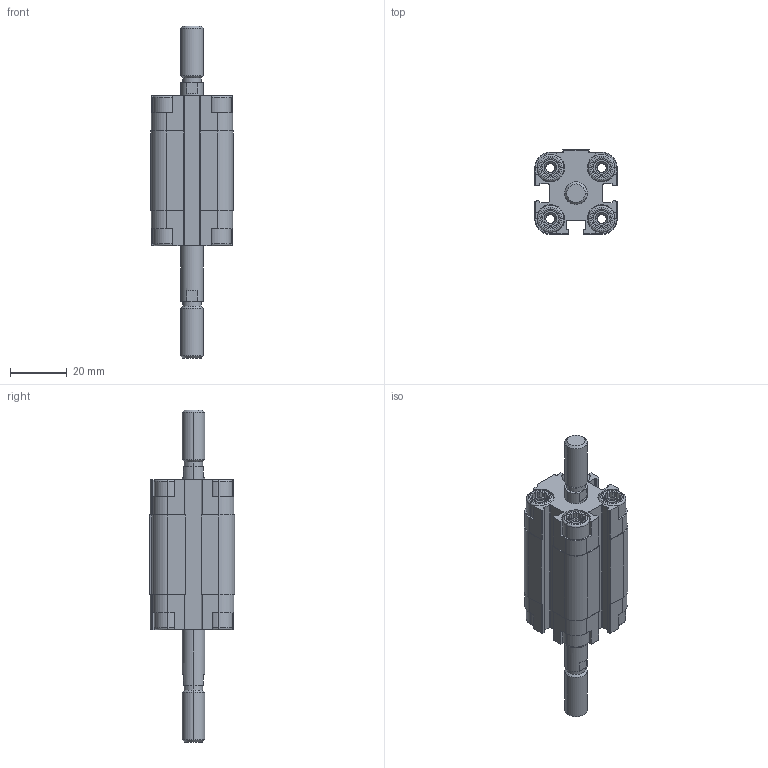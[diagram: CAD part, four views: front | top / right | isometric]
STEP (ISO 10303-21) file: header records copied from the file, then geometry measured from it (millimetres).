
FILE_DESCRIPTION (( 'STEP AP203' ), '1' );
FILE_NAME ('CDVU16-15M-P.STEP', '2020-07-21T15:03:59', ( '' ), ( '' ), 'SwSTEP 2.0', 'SolidWorks 2019', '' );
FILE_SCHEMA (( 'CONFIG_CONTROL_DESIGN' ));
Length unit declared in the file: millimetre
Products named in the file (1): CDVU16-15M-P
Bounding box: 29 x 30 x 117 mm (x, y, z)
Volume: 34521.9 mm3; surface area: 19427.9 mm2
Topology: 2 solids, 2 shells, 566 faces, 1504 edges, 978 vertices
Faces by surface type: plane 338, cylinder 164, cone 48, torus 16
Entity records: 17771 total; most frequent: CARTESIAN_POINT 3621, ORIENTED_EDGE 3000, DIRECTION 2850, EDGE_CURVE 1500, VERTEX_POINT 978, AXIS2_PLACEMENT_3D 975, LINE 900, VECTOR 900
